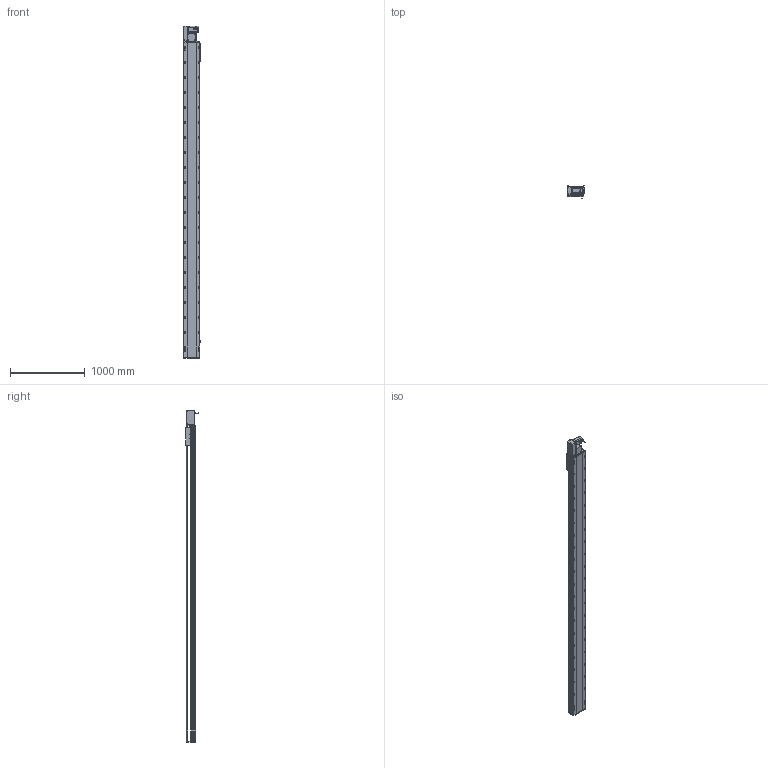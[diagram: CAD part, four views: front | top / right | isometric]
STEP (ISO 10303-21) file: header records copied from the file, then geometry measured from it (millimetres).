
FILE_DESCRIPTION (( 'STEP AP214' ), '1' );
FILE_NAME ('RTB22S-XX-3850-L-M75-C4.STEP', '2025-12-12T03:38:22', ( '' ), ( '' ), 'SwSTEP 2.0', 'SolidWorks 2018', '' );
FILE_SCHEMA (( 'AUTOMOTIVE_DESIGN' ));
Length unit declared in the file: millimetre
Products named in the file (14): RTB22S-GY-014--々湍釱^RTB22S-L-々湍釱蚾饜_RTB22S-XX-XX-L-M75-C4; RTB22S-L-011菁釱^RTB22S-XX-XX-L-M75-C4; RTH22-GY-013外置感应片^RTB22S-XX-XX-L-M75-C4; RTB22S-L-々湍釱蚾饜^RTB22S-XX-XX-L-M75-C4; RTB22S-GY-005P^RTB22S-L-々湍釱蚾饜_RTB22S-XX-XX-L-M75-C4; RTB22S-GY-007奻裔^RTB22S-XX-XX-L-M75-C4; 750W萇儂^RTB22S-XX-XX-L-M75-C4; RTB22S-GY-017P^RTB22S-L-々湍釱蚾饜_RTB22S-XX-XX-L-M75-C4; RTB22S-GY-018P^RTB22S-L-々湍釱蚾饜_RTB22S-XX-XX-L-M75-C4; RTB22S-GY-008-M75--萇儂啣^RTB22S-L-々湍釱蚾饜_RTB22S-XX-XX-L-M75-C4; RTB22S-L-004賑釱^RTB22S-XX-XX-L-M75-C4; OMRON EE-SX672 传感器^RTB22S-XX-XX-L-M75-C4; RTB22S-GY-001耜裔^RTB22S-XX-XX-L-M75-C4; RTB22S-XX-3850-L-M75-C4
Assembly tree (16 placements, depth 3):
  RTB22S-XX-3850-L-M75-C4
    RTB22S-L-011菁釱^RTB22S-XX-XX-L-M75-C4
    750W萇儂^RTB22S-XX-XX-L-M75-C4
    RTB22S-L-004賑釱^RTB22S-XX-XX-L-M75-C4
    OMRON EE-SX672 传感器^RTB22S-XX-XX-L-M75-C4  x3
    RTH22-GY-013外置感应片^RTB22S-XX-XX-L-M75-C4
    RTB22S-GY-007奻裔^RTB22S-XX-XX-L-M75-C4
    RTB22S-GY-001耜裔^RTB22S-XX-XX-L-M75-C4
    RTB22S-L-々湍釱蚾饜^RTB22S-XX-XX-L-M75-C4
      RTB22S-GY-014--々湍釱^RTB22S-L-々湍釱蚾饜_RTB22S-XX-XX-L-M75-C4
      RTB22S-GY-017P^RTB22S-L-々湍釱蚾饜_RTB22S-XX-XX-L-M75-C4  x2
      RTB22S-GY-005P^RTB22S-L-々湍釱蚾饜_RTB22S-XX-XX-L-M75-C4
      RTB22S-GY-008-M75--萇儂啣^RTB22S-L-々湍釱蚾饜_RTB22S-XX-XX-L-M75-C4
      RTB22S-GY-018P^RTB22S-L-々湍釱蚾饜_RTB22S-XX-XX-L-M75-C4
Bounding box: 238.5 x 162.7 x 4429 mm (x, y, z)
Volume: 54487344.1 mm3; surface area: 5537901.8 mm2
Topology: 15 solids, 15 shells, 2235 faces, 6086 edges, 3872 vertices
Faces by surface type: plane 943, cylinder 790, bspline 296, cone 194, sphere 8, torus 4
Entity records: 61980 total; most frequent: CARTESIAN_POINT 17244, ORIENTED_EDGE 8848, DIRECTION 8758, EDGE_CURVE 4424, AXIS2_PLACEMENT_3D 3182, VERTEX_POINT 2876, LINE 2394, VECTOR 2394
